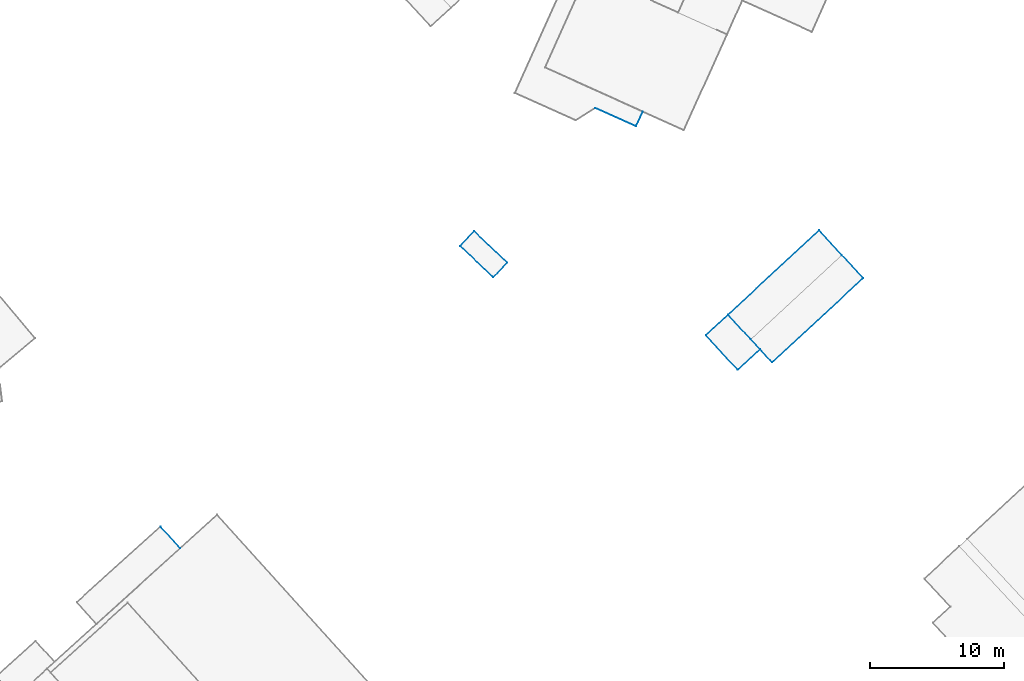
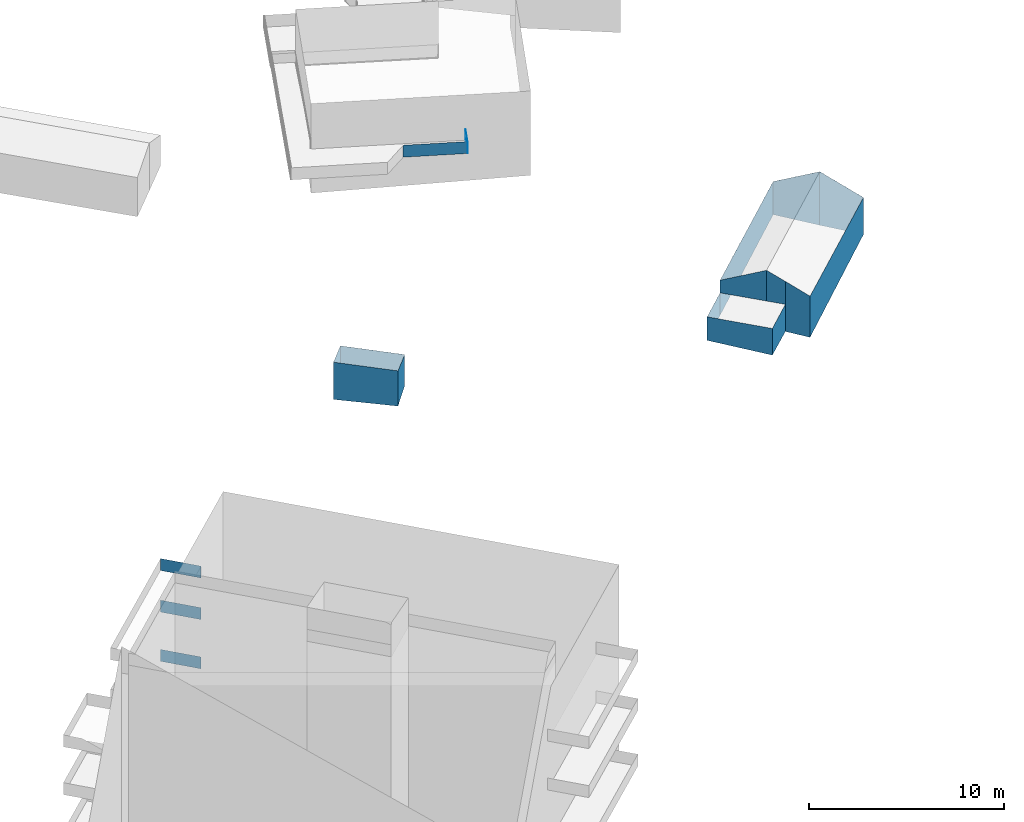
# Not in any storey, part 56 of 136: 24 walls.
"""IFC4 building model written with IfcOpenShell, lengths in metres."""

from ifc_helpers import new_model, entity, si_unit, converted_unit, frame, origin, place, context, subcontext, project, spatial, face_set, surface_model, element, save


model = new_model("IFC4")

# Units and contexts
model_context = context("Model", 3, precision=1e-05, world=origin())
body_context = subcontext(model_context, "Body", "Model", "MODEL_VIEW")
ifc_project = project(units=[converted_unit("PLANEANGLEUNIT", "DEGREE", entity("IfcRatioMeasure", 0.0174532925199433), si_unit("PLANEANGLEUNIT", "RADIAN"), dimensions=[0, 0, 0, 0, 0, 0, 0]), si_unit("AREAUNIT", "SQUARE_METRE"), si_unit("LENGTHUNIT", "METRE")], contexts=[model_context])

# Site, building
site_placement = place(None, origin())
site = spatial("IfcSite", under=ifc_project, at=site_placement, Name="_site")
building_1_placement = place(site_placement, origin())
building_1 = spatial("IfcBuilding", under=site, at=building_1_placement, Name="_building")

# Walls
wall_1_placement = place(building_1_placement, origin())
element("IfcWall", 1, at=wall_1_placement, inside=building_1, Name="Wall", PredefinedType="NOTDEFINED", context=body_context, shape_type="SurfaceModel", body=[
    surface_model("IfcFaceBasedSurfaceModel", [(104.11, 76.79, 40.36), (101.63, 79.12, 40.36), (101.63, 79.12, 38.027), (104.11, 76.79, 38.151)], [face_set([[[0, 1, 2, 3]]])]),
])
wall_2_placement = place(building_1_placement, origin())
element("IfcWall", 2, at=wall_2_placement, inside=building_1, Name="Wall", PredefinedType="NOTDEFINED", context=body_context, shape_type="SurfaceModel", body=[
    surface_model("IfcFaceBasedSurfaceModel", [(102.67, 80.22, 40.36), (105.14, 77.88, 40.36), (105.14, 77.88, 38.428), (102.67, 80.22, 38.254)], [face_set([[[0, 1, 2, 3]]])]),
])
wall_3_placement = place(building_1_placement, origin())
element("IfcWall", 3, at=wall_3_placement, inside=building_1, Name="Wall", PredefinedType="NOTDEFINED", context=body_context, shape_type="SurfaceModel", body=[
    surface_model("IfcFaceBasedSurfaceModel", [(101.63, 79.12, 40.36), (102.67, 80.22, 40.36), (102.67, 80.22, 38.254), (101.63, 79.12, 38.027)], [face_set([[[0, 1, 2, 3]]])]),
])
wall_4_placement = place(building_1_placement, origin())
element("IfcWall", 4, at=wall_4_placement, inside=building_1, Name="Wall", PredefinedType="NOTDEFINED", context=body_context, shape_type="SurfaceModel", body=[
    surface_model("IfcFaceBasedSurfaceModel", [(105.14, 77.88, 40.36), (104.11, 76.79, 40.36), (104.11, 76.79, 38.151), (105.14, 77.88, 38.428)], [face_set([[[0, 1, 2, 3]]])]),
])

# Building
building_2_placement = place(site_placement, origin())
building_2 = spatial("IfcBuilding", under=site, at=building_2_placement, Name="_building")

# Walls
wall_5_placement = place(building_2_placement, origin())
element("IfcWall", 5, at=wall_5_placement, inside=building_2, Name="Wall", PredefinedType="NOTDEFINED", context=body_context, shape_type="SurfaceModel", body=[
    surface_model("IfcFaceBasedSurfaceModel", [(121.62, 74.0, 41.61), (128.41, 80.3, 41.61), (128.41, 80.3, 39.53), (121.62, 74.0, 39.408)], [face_set([[[0, 1, 2, 3]]])]),
])
wall_6_placement = place(building_2_placement, origin())
element("IfcWall", 6, at=wall_6_placement, inside=building_2, Name="Wall", PredefinedType="NOTDEFINED", context=body_context, shape_type="SurfaceModel", body=[
    surface_model("IfcFaceBasedSurfaceModel", [(124.91, 70.45, 41.61), (124.01, 71.43, 42.26), (124.01, 71.43, 39.119), (124.91, 70.45, 39.03)], [face_set([[[0, 1, 2, 3]]])]),
])
wall_7_placement = place(building_2_placement, origin())
element("IfcWall", 7, at=wall_7_placement, inside=building_2, Name="Wall", PredefinedType="NOTDEFINED", context=body_context, shape_type="SurfaceModel", body=[
    surface_model("IfcFaceBasedSurfaceModel", [(131.71, 76.74, 41.61), (124.91, 70.45, 41.61), (124.91, 70.45, 39.03), (131.71, 76.74, 39.289)], [face_set([[[0, 1, 2, 3]]])]),
])
wall_8_placement = place(building_2_placement, origin())
element("IfcWall", 8, at=wall_8_placement, inside=building_2, Name="Wall", PredefinedType="NOTDEFINED", context=body_context, shape_type="SurfaceModel", body=[
    surface_model("IfcFaceBasedSurfaceModel", [(124.01, 71.43, 42.26), (123.32, 72.17, 42.75), (123.32, 72.17, 40.82), (124.01, 71.43, 40.82)], [face_set([[[0, 1, 2, 3]]])]),
])
wall_9_placement = place(building_2_placement, origin())
element("IfcWall", 9, at=wall_9_placement, inside=building_2, Name="Wall", PredefinedType="NOTDEFINED", context=body_context, shape_type="SurfaceModel", body=[
    surface_model("IfcFaceBasedSurfaceModel", [(130.11, 78.46, 42.75), (131.71, 76.74, 41.61), (131.71, 76.74, 39.289), (130.11, 78.46, 39.385)], [face_set([[[0, 1, 2, 3]]])]),
])
wall_10_placement = place(building_2_placement, origin())
element("IfcWall", 10, at=wall_10_placement, inside=building_2, Name="Wall", PredefinedType="NOTDEFINED", context=body_context, shape_type="SurfaceModel", body=[
    surface_model("IfcFaceBasedSurfaceModel", [(123.32, 72.17, 42.75), (121.62, 74.0, 41.61), (121.62, 74.0, 40.82), (123.32, 72.17, 40.82)], [face_set([[[0, 1, 2, 3]]])]),
])
wall_11_placement = place(building_2_placement, origin())
element("IfcWall", 11, at=wall_11_placement, inside=building_2, Name="Wall", PredefinedType="NOTDEFINED", context=body_context, shape_type="SurfaceModel", body=[
    surface_model("IfcFaceBasedSurfaceModel", [(124.01, 71.43, 40.82), (122.35, 69.89, 40.82), (122.35, 69.89, 39.148), (124.01, 71.43, 39.119)], [face_set([[[0, 1, 2, 3]]])]),
])
wall_12_placement = place(building_2_placement, origin())
element("IfcWall", 12, at=wall_12_placement, inside=building_2, Name="Wall", PredefinedType="NOTDEFINED", context=body_context, shape_type="SurfaceModel", body=[
    surface_model("IfcFaceBasedSurfaceModel", [(119.97, 72.47, 40.82), (121.62, 74.0, 40.82), (121.62, 74.0, 39.408), (119.97, 72.47, 39.343)], [face_set([[[0, 1, 2, 3]]])]),
])
wall_13_placement = place(building_2_placement, origin())
element("IfcWall", 13, at=wall_13_placement, inside=building_2, Name="Wall", PredefinedType="NOTDEFINED", context=body_context, shape_type="SurfaceModel", body=[
    surface_model("IfcFaceBasedSurfaceModel", [(122.35, 69.89, 40.82), (119.97, 72.47, 40.82), (119.97, 72.47, 39.343), (122.35, 69.89, 39.148)], [face_set([[[0, 1, 2, 3]]])]),
])
wall_14_placement = place(building_2_placement, origin())
element("IfcWall", 14, at=wall_14_placement, inside=building_2, Name="Wall", PredefinedType="NOTDEFINED", context=body_context, shape_type="SurfaceModel", body=[
    surface_model("IfcFaceBasedSurfaceModel", [(128.41, 80.3, 41.61), (130.11, 78.46, 42.75), (130.11, 78.46, 39.385), (128.41, 80.3, 39.53)], [face_set([[[0, 1, 2, 3]]])]),
])

# Building
building_3_placement = place(site_placement, origin())
building_3 = spatial("IfcBuilding", under=site, at=building_3_placement, Name="_building")

# Walls
wall_15_placement = place(building_3_placement, origin())
element("IfcWall", 15, at=wall_15_placement, inside=building_3, Name="Wall", PredefinedType="NOTDEFINED", context=body_context, shape_type="SurfaceModel", body=[
    surface_model("IfcFaceBasedSurfaceModel", [(115.25, 89.15, 43.45), (114.75, 88.05, 43.45), (114.75, 88.05, 44.2), (115.25, 89.15, 44.2)], [face_set([[[0, 1, 2, 3]]])]),
])
for number, where, name in (
    (16, (0.0, 0.0, 0.0), "Wall"),
    (17, (0.0, 0.0, 0.0), "Wall"),
):
    element("IfcWall", number, at=place(building_3_placement, frame(where)), inside=building_3, Name=name, PredefinedType="NOTDEFINED", context=body_context, shape_type="SurfaceModel", body=[
        surface_model("IfcFaceBasedSurfaceModel", [(114.75, 88.05, 43.45), (111.71, 89.42, 43.45), (111.71, 89.42, 44.2), (114.75, 88.05, 44.2)], [face_set([[[0, 1, 2, 3]]])]),
    ])
wall_16_placement = place(building_3_placement, origin())
element("IfcWall", 18, at=wall_16_placement, inside=building_3, Name="Wall", PredefinedType="NOTDEFINED", context=body_context, shape_type="SurfaceModel", body=[
    surface_model("IfcFaceBasedSurfaceModel", [(115.25, 89.15, 43.45), (114.75, 88.05, 43.45), (114.75, 88.05, 44.2), (115.25, 89.15, 44.2)], [face_set([[[0, 1, 2, 3]]])]),
])

# Building
building_4_placement = place(site_placement, origin())
building_4 = spatial("IfcBuilding", under=site, at=building_4_placement, Name="_building")

# Walls
for number, where, name in (
    (19, (0.0, 0.0, 0.0), "Wall"),
    (20, (0.0, 0.0, 0.0), "Wall"),
):
    element("IfcWall", number, at=place(building_4_placement, frame(where)), inside=building_4, Name=name, PredefinedType="NOTDEFINED", context=body_context, shape_type="SurfaceModel", body=[
        surface_model("IfcFaceBasedSurfaceModel", [(79.29, 58.21, 47.79), (80.76, 56.58, 47.79), (80.76, 56.58, 48.54), (79.29, 58.21, 48.54)], [face_set([[[0, 1, 2, 3]]])]),
    ])
for number, where, name in (
    (21, (0.0, 0.0, 0.0), "Wall"),
    (22, (0.0, 0.0, 0.0), "Wall"),
):
    element("IfcWall", number, at=place(building_4_placement, frame(where)), inside=building_4, Name=name, PredefinedType="NOTDEFINED", context=body_context, shape_type="SurfaceModel", body=[
        surface_model("IfcFaceBasedSurfaceModel", [(79.29, 58.21, 42.09), (80.76, 56.58, 42.09), (80.76, 56.58, 42.84), (79.29, 58.21, 42.84)], [face_set([[[0, 1, 2, 3]]])]),
    ])
for number, where, name in (
    (23, (0.0, 0.0, 0.0), "Wall"),
    (24, (0.0, 0.0, 0.0), "Wall"),
):
    element("IfcWall", number, at=place(building_4_placement, frame(where)), inside=building_4, Name=name, PredefinedType="NOTDEFINED", context=body_context, shape_type="SurfaceModel", body=[
        surface_model("IfcFaceBasedSurfaceModel", [(79.29, 58.21, 45.18), (80.76, 56.58, 45.18), (80.76, 56.58, 45.93), (79.29, 58.21, 45.93)], [face_set([[[0, 1, 2, 3]]])]),
    ])

save(model, "model.ifc")
